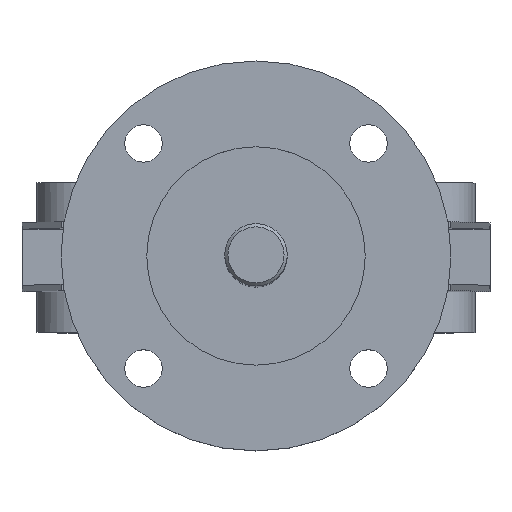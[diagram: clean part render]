
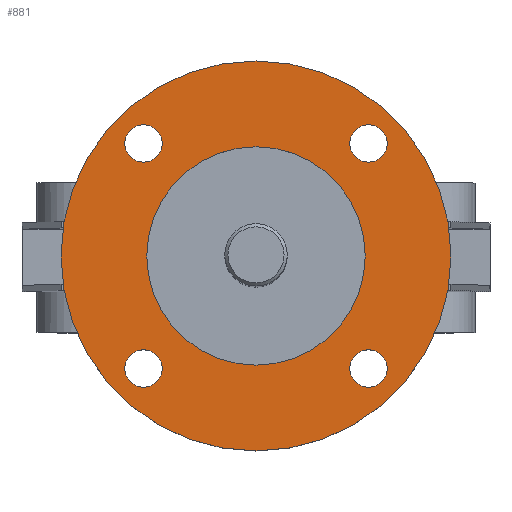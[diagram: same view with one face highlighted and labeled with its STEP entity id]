
A CAD part, top view. The second image highlights one B-rep face of the part: STEP entity #881.
In plain terms, the highlighted planar face has unit normal (0, 0, 1).
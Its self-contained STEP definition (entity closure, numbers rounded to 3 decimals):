
#881=ADVANCED_FACE('',(#2172,#2174,#2176,#2178,#2180,#2182),#2184,.T.);
#2172=FACE_BOUND('',#2173,.T.);
#2173=EDGE_LOOP('',(#3258));
#2174=FACE_BOUND('',#2175,.T.);
#2175=EDGE_LOOP('',(#3259));
#2176=FACE_BOUND('',#2177,.T.);
#2177=EDGE_LOOP('',(#3260));
#2178=FACE_BOUND('',#2179,.T.);
#2179=EDGE_LOOP('',(#3261));
#2180=FACE_BOUND('',#2181,.T.);
#2181=EDGE_LOOP('',(#3262));
#2182=FACE_BOUND('',#2183,.T.);
#2183=EDGE_LOOP('',(#3263));
#2184=PLANE('',#2185);
#2185=AXIS2_PLACEMENT_3D('',#2186,#2187,#2188);
#2186=CARTESIAN_POINT('',(0.,0.,330.));
#2187=DIRECTION('',(0.,0.,1.));
#2188=DIRECTION('',(-1.,0.,0.));
#3258=ORIENTED_EDGE('',*,*,#3745,.T.);
#3259=ORIENTED_EDGE('',*,*,#3746,.T.);
#3260=ORIENTED_EDGE('',*,*,#3747,.T.);
#3261=ORIENTED_EDGE('',*,*,#3748,.T.);
#3262=ORIENTED_EDGE('',*,*,#3853,.T.);
#3263=ORIENTED_EDGE('',*,*,#3749,.T.);
#3745=EDGE_CURVE('',#4313,#4313,#4314,.T.);
#3746=EDGE_CURVE('',#4315,#4315,#4316,.F.);
#3747=EDGE_CURVE('',#4317,#4317,#4318,.F.);
#3748=EDGE_CURVE('',#4319,#4319,#4320,.F.);
#3749=EDGE_CURVE('',#4321,#4321,#4322,.F.);
#3853=EDGE_CURVE('',#4501,#4501,#4502,.F.);
#4313=VERTEX_POINT('',#5483);
#4314=CIRCLE('',#5484,62.5);
#4315=VERTEX_POINT('',#5488);
#4316=CIRCLE('',#5489,6.);
#4317=VERTEX_POINT('',#5493);
#4318=CIRCLE('',#5494,6.);
#4319=VERTEX_POINT('',#5498);
#4320=CIRCLE('',#5499,6.);
#4321=VERTEX_POINT('',#5503);
#4322=CIRCLE('',#5504,6.);
#4501=VERTEX_POINT('',#5937);
#4502=CIRCLE('',#5938,35.);
#5483=CARTESIAN_POINT('',(-62.5,0.,330.));
#5484=AXIS2_PLACEMENT_3D('',#5485,#5486,#5487);
#5485=CARTESIAN_POINT('',(0.,0.,330.));
#5486=DIRECTION('',(0.,0.,1.));
#5487=DIRECTION('',(-1.,0.,0.));
#5488=CARTESIAN_POINT('',(30.062,-36.062,330.));
#5489=AXIS2_PLACEMENT_3D('',#5490,#5491,#5492);
#5490=CARTESIAN_POINT('',(36.062,-36.062,330.));
#5491=DIRECTION('',(0.,0.,1.));
#5492=DIRECTION('',(-1.,0.,0.));
#5493=CARTESIAN_POINT('',(36.062,30.062,330.));
#5494=AXIS2_PLACEMENT_3D('',#5495,#5496,#5497);
#5495=CARTESIAN_POINT('',(36.062,36.062,330.));
#5496=DIRECTION('',(0.,0.,1.));
#5497=DIRECTION('',(0.,-1.,0.));
#5498=CARTESIAN_POINT('',(-30.062,36.062,330.));
#5499=AXIS2_PLACEMENT_3D('',#5500,#5501,#5502);
#5500=CARTESIAN_POINT('',(-36.062,36.062,330.));
#5501=DIRECTION('',(0.,0.,1.));
#5502=DIRECTION('',(1.,0.,-0.));
#5503=CARTESIAN_POINT('',(-36.062,-30.062,330.));
#5504=AXIS2_PLACEMENT_3D('',#5505,#5506,#5507);
#5505=CARTESIAN_POINT('',(-36.062,-36.062,330.));
#5506=DIRECTION('',(0.,0.,1.));
#5507=DIRECTION('',(0.,1.,0.));
#5937=CARTESIAN_POINT('',(0.,35.,330.));
#5938=AXIS2_PLACEMENT_3D('',#5939,#5940,#5941);
#5939=CARTESIAN_POINT('',(0.,0.,330.));
#5940=DIRECTION('',(0.,0.,1.));
#5941=DIRECTION('',(0.,1.,0.));
